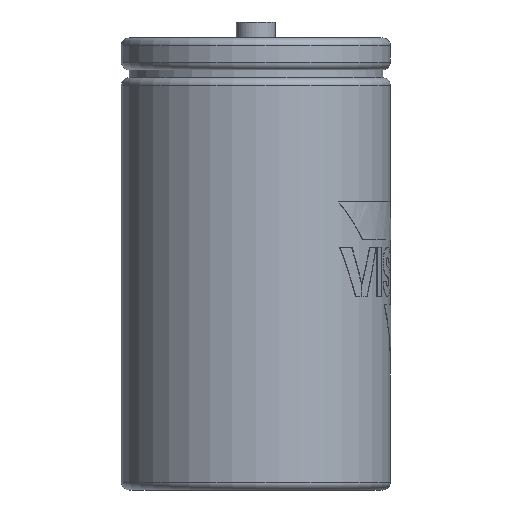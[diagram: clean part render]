
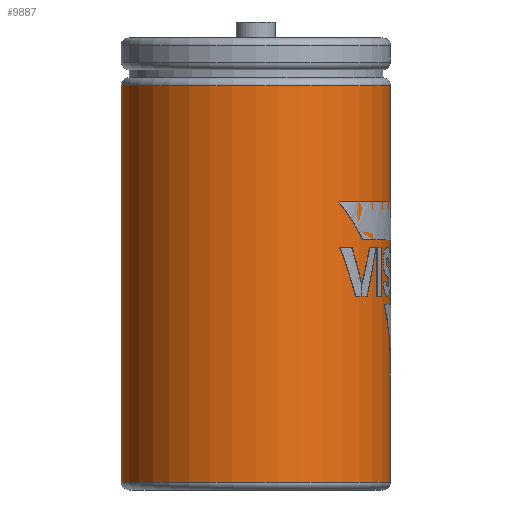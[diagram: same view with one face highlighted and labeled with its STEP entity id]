
A CAD part, left-side view. The second image highlights one B-rep face of the part: STEP entity #9887.
In plain terms, the highlighted cylindrical face has radius 44.7 mm (diameter 89.4 mm), a full revolution.
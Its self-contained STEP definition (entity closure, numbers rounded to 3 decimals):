
#9820 = TOROIDAL_SURFACE('',#9821,42.1,2.6);
#9821 = AXIS2_PLACEMENT_3D('',#9822,#9823,#9824);
#9822 = CARTESIAN_POINT('',(0.,0.,-144.9));
#9823 = DIRECTION('',(0.,0.,1.));
#9824 = DIRECTION('',(1.,0.,0.));
#9837 = VERTEX_POINT('',#9838);
#9838 = CARTESIAN_POINT('',(44.7,0.,-144.9));
#9860 = EDGE_CURVE('',#9837,#9837,#9861,.T.);
#9861 = SURFACE_CURVE('',#9862,(#9867,#9874),.PCURVE_S1.);
#9862 = CIRCLE('',#9863,44.7);
#9863 = AXIS2_PLACEMENT_3D('',#9864,#9865,#9866);
#9864 = CARTESIAN_POINT('',(0.,0.,-144.9));
#9865 = DIRECTION('',(-0.,0.,1.));
#9866 = DIRECTION('',(1.,0.,0.));
#9867 = PCURVE('',#9820,#9868);
#9868 = DEFINITIONAL_REPRESENTATION('',(#9869),#9873);
#9869 = LINE('',#9870,#9871);
#9870 = CARTESIAN_POINT('',(0.,6.283));
#9871 = VECTOR('',#9872,1.);
#9872 = DIRECTION('',(1.,0.));
#9873 = ( GEOMETRIC_REPRESENTATION_CONTEXT(2) 
PARAMETRIC_REPRESENTATION_CONTEXT() REPRESENTATION_CONTEXT('2D SPACE',''
  ) );
#9874 = PCURVE('',#9875,#9880);
#9875 = CYLINDRICAL_SURFACE('',#9876,44.7);
#9876 = AXIS2_PLACEMENT_3D('',#9877,#9878,#9879);
#9877 = CARTESIAN_POINT('',(0.,0.,-144.9));
#9878 = DIRECTION('',(0.,0.,1.));
#9879 = DIRECTION('',(1.,0.,0.));
#9880 = DEFINITIONAL_REPRESENTATION('',(#9881),#9885);
#9881 = LINE('',#9882,#9883);
#9882 = CARTESIAN_POINT('',(0.,0.));
#9883 = VECTOR('',#9884,1.);
#9884 = DIRECTION('',(1.,0.));
#9885 = ( GEOMETRIC_REPRESENTATION_CONTEXT(2) 
PARAMETRIC_REPRESENTATION_CONTEXT() REPRESENTATION_CONTEXT('2D SPACE',''
  ) );
#9887 = ADVANCED_FACE('',(#9888),#9875,.T.);
#9888 = FACE_BOUND('',#9889,.T.);
#9889 = EDGE_LOOP('',(#9890,#9891,#9914,#9941));
#9890 = ORIENTED_EDGE('',*,*,#9860,.T.);
#9891 = ORIENTED_EDGE('',*,*,#9892,.T.);
#9892 = EDGE_CURVE('',#9837,#9893,#9895,.T.);
#9893 = VERTEX_POINT('',#9894);
#9894 = CARTESIAN_POINT('',(44.7,0.,-13.2));
#9895 = SEAM_CURVE('',#9896,(#9900,#9907),.PCURVE_S1.);
#9896 = LINE('',#9897,#9898);
#9897 = CARTESIAN_POINT('',(44.7,0.,-144.9));
#9898 = VECTOR('',#9899,1.);
#9899 = DIRECTION('',(0.,0.,1.));
#9900 = PCURVE('',#9875,#9901);
#9901 = DEFINITIONAL_REPRESENTATION('',(#9902),#9906);
#9902 = LINE('',#9903,#9904);
#9903 = CARTESIAN_POINT('',(0.,0.));
#9904 = VECTOR('',#9905,1.);
#9905 = DIRECTION('',(0.,1.));
#9906 = ( GEOMETRIC_REPRESENTATION_CONTEXT(2) 
PARAMETRIC_REPRESENTATION_CONTEXT() REPRESENTATION_CONTEXT('2D SPACE',''
  ) );
#9907 = PCURVE('',#9875,#9908);
#9908 = DEFINITIONAL_REPRESENTATION('',(#9909),#9913);
#9909 = LINE('',#9910,#9911);
#9910 = CARTESIAN_POINT('',(6.283,0.));
#9911 = VECTOR('',#9912,1.);
#9912 = DIRECTION('',(0.,1.));
#9913 = ( GEOMETRIC_REPRESENTATION_CONTEXT(2) 
PARAMETRIC_REPRESENTATION_CONTEXT() REPRESENTATION_CONTEXT('2D SPACE',''
  ) );
#9914 = ORIENTED_EDGE('',*,*,#9915,.F.);
#9915 = EDGE_CURVE('',#9893,#9893,#9916,.T.);
#9916 = SURFACE_CURVE('',#9917,(#9922,#9929),.PCURVE_S1.);
#9917 = CIRCLE('',#9918,44.7);
#9918 = AXIS2_PLACEMENT_3D('',#9919,#9920,#9921);
#9919 = CARTESIAN_POINT('',(0.,0.,-13.2));
#9920 = DIRECTION('',(-0.,0.,1.));
#9921 = DIRECTION('',(1.,0.,0.));
#9922 = PCURVE('',#9875,#9923);
#9923 = DEFINITIONAL_REPRESENTATION('',(#9924),#9928);
#9924 = LINE('',#9925,#9926);
#9925 = CARTESIAN_POINT('',(0.,131.7));
#9926 = VECTOR('',#9927,1.);
#9927 = DIRECTION('',(1.,0.));
#9928 = ( GEOMETRIC_REPRESENTATION_CONTEXT(2) 
PARAMETRIC_REPRESENTATION_CONTEXT() REPRESENTATION_CONTEXT('2D SPACE',''
  ) );
#9929 = PCURVE('',#9930,#9935);
#9930 = TOROIDAL_SURFACE('',#9931,42.1,2.6);
#9931 = AXIS2_PLACEMENT_3D('',#9932,#9933,#9934);
#9932 = CARTESIAN_POINT('',(0.,0.,-13.2));
#9933 = DIRECTION('',(0.,0.,1.));
#9934 = DIRECTION('',(1.,0.,0.));
#9935 = DEFINITIONAL_REPRESENTATION('',(#9936),#9940);
#9936 = LINE('',#9937,#9938);
#9937 = CARTESIAN_POINT('',(0.,0.));
#9938 = VECTOR('',#9939,1.);
#9939 = DIRECTION('',(1.,0.));
#9940 = ( GEOMETRIC_REPRESENTATION_CONTEXT(2) 
PARAMETRIC_REPRESENTATION_CONTEXT() REPRESENTATION_CONTEXT('2D SPACE',''
  ) );
#9941 = ORIENTED_EDGE('',*,*,#9892,.F.);
